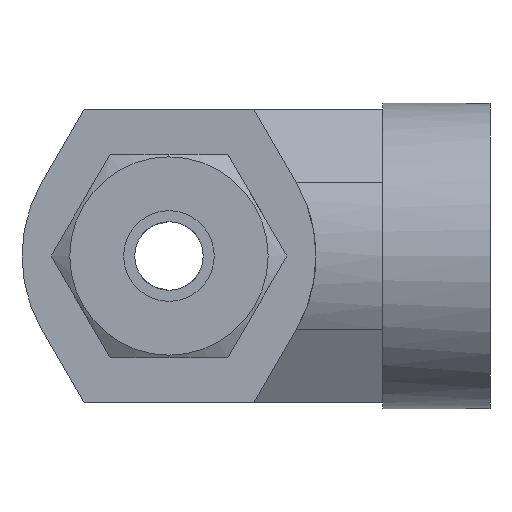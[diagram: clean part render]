
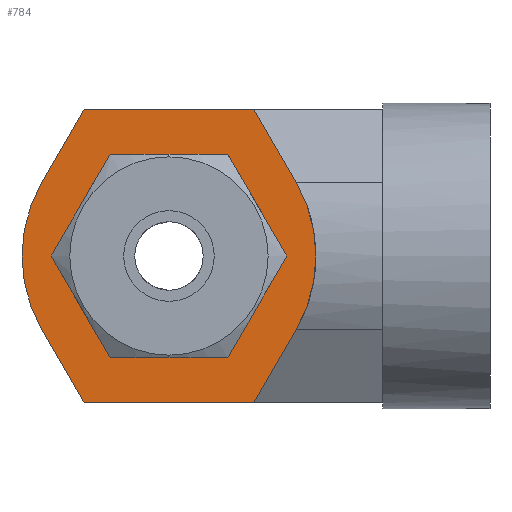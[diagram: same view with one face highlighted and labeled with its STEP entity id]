
A CAD part, left-side view. The second image highlights one B-rep face of the part: STEP entity #784.
In plain terms, the highlighted planar face has unit normal (-1, 0, 0).
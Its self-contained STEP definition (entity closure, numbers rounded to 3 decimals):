
#181 = VERTEX_POINT ( 'NONE', #1405 ) ;
#205 = EDGE_CURVE ( 'NONE', #181, #206, #1428, .T. ) ;
#206 = VERTEX_POINT ( 'NONE', #1423 ) ;
#523 = EDGE_CURVE ( 'NONE', #535, #527, #2210, .T. ) ;
#526 = EDGE_CURVE ( 'NONE', #527, #544, #2205, .T. ) ;
#527 = VERTEX_POINT ( 'NONE', #2196 ) ;
#535 = VERTEX_POINT ( 'NONE', #2181 ) ;
#541 = VERTEX_POINT ( 'NONE', #2239 ) ;
#543 = EDGE_CURVE ( 'NONE', #544, #541, #2238, .T. ) ;
#544 = VERTEX_POINT ( 'NONE', #2233 ) ;
#561 = VERTEX_POINT ( 'NONE', #2267 ) ;
#563 = EDGE_CURVE ( 'NONE', #564, #561, #2266, .T. ) ;
#564 = VERTEX_POINT ( 'NONE', #2262 ) ;
#633 = EDGE_CURVE ( 'NONE', #541, #564, #2344, .T. ) ;
#761 = EDGE_LOOP ( 'NONE', ( #762, #766, #768, #769, #770, #771, #772, #773 ) ) ;
#762 = ORIENTED_EDGE ( 'NONE', *, *, #763, .T. ) ;
#763 = EDGE_CURVE ( 'NONE', #764, #765, #2544, .T. ) ;
#764 = VERTEX_POINT ( 'NONE', #2601 ) ;
#765 = VERTEX_POINT ( 'NONE', #2600 ) ;
#766 = ORIENTED_EDGE ( 'NONE', *, *, #767, .T. ) ;
#767 = EDGE_CURVE ( 'NONE', #765, #535, #2599, .T. ) ;
#768 = ORIENTED_EDGE ( 'NONE', *, *, #523, .T. ) ;
#769 = ORIENTED_EDGE ( 'NONE', *, *, #526, .T. ) ;
#770 = ORIENTED_EDGE ( 'NONE', *, *, #543, .T. ) ;
#771 = ORIENTED_EDGE ( 'NONE', *, *, #633, .T. ) ;
#772 = ORIENTED_EDGE ( 'NONE', *, *, #563, .T. ) ;
#773 = ORIENTED_EDGE ( 'NONE', *, *, #825, .T. ) ;
#784 = ADVANCED_FACE ( 'NONE', ( #2579, #2578 ), #2576, .T. ) ;
#825 = EDGE_CURVE ( 'NONE', #561, #764, #2704, .T. ) ;
#826 = EDGE_LOOP ( 'NONE', ( #827, #829 ) ) ;
#827 = ORIENTED_EDGE ( 'NONE', *, *, #828, .F. ) ;
#828 = EDGE_CURVE ( 'NONE', #206, #181, #2700, .T. ) ;
#829 = ORIENTED_EDGE ( 'NONE', *, *, #205, .F. ) ;
#1405 = CARTESIAN_POINT ( 'NONE',  ( -12.17, 0., -4.71 ) ) ;
#1423 = CARTESIAN_POINT ( 'NONE',  ( -12.17, 0., 4.71 ) ) ;
#1424 = DIRECTION ( 'NONE',  ( 0., 0., -1. ) ) ;
#1425 = DIRECTION ( 'NONE',  ( -1., 0., 0. ) ) ;
#1426 = CARTESIAN_POINT ( 'NONE',  ( -12.17, 0., 0. ) ) ;
#1427 = AXIS2_PLACEMENT_3D ( 'NONE', #1426, #1425, #1424 ) ;
#1428 = CIRCLE ( 'NONE', #1427, 4.71 ) ;
#2181 = CARTESIAN_POINT ( 'NONE',  ( -12.17, -5.947, 10.3 ) ) ;
#2196 = CARTESIAN_POINT ( 'NONE',  ( -12.17, 5.947, 10.3 ) ) ;
#2197 = DIRECTION ( 'NONE',  ( 0., 0.5, -0.866 ) ) ;
#2198 = VECTOR ( 'NONE', #2197, 1000. ) ;
#2199 = CARTESIAN_POINT ( 'NONE',  ( -12.17, 5.947, 10.3 ) ) ;
#2205 = LINE ( 'NONE', #2199, #2198 ) ;
#2207 = DIRECTION ( 'NONE',  ( 0., 1., 0. ) ) ;
#2208 = VECTOR ( 'NONE', #2207, 1000. ) ;
#2209 = CARTESIAN_POINT ( 'NONE',  ( -12.17, -5.947, 10.3 ) ) ;
#2210 = LINE ( 'NONE', #2209, #2208 ) ;
#2233 = CARTESIAN_POINT ( 'NONE',  ( -12.17, 8.92, 5.15 ) ) ;
#2234 = DIRECTION ( 'NONE',  ( 0., 0., -1. ) ) ;
#2235 = DIRECTION ( 'NONE',  ( -1., 0., 0. ) ) ;
#2236 = CARTESIAN_POINT ( 'NONE',  ( -12.17, 0., 0. ) ) ;
#2237 = AXIS2_PLACEMENT_3D ( 'NONE', #2236, #2235, #2234 ) ;
#2238 = CIRCLE ( 'NONE', #2237, 10.3 ) ;
#2239 = CARTESIAN_POINT ( 'NONE',  ( -12.17, 8.92, -5.15 ) ) ;
#2262 = CARTESIAN_POINT ( 'NONE',  ( -12.17, 5.947, -10.3 ) ) ;
#2263 = DIRECTION ( 'NONE',  ( 0., -1., 0. ) ) ;
#2264 = VECTOR ( 'NONE', #2263, 1000. ) ;
#2265 = CARTESIAN_POINT ( 'NONE',  ( -12.17, 5.947, -10.3 ) ) ;
#2266 = LINE ( 'NONE', #2265, #2264 ) ;
#2267 = CARTESIAN_POINT ( 'NONE',  ( -12.17, -5.947, -10.3 ) ) ;
#2341 = DIRECTION ( 'NONE',  ( 0., -0.5, -0.866 ) ) ;
#2342 = VECTOR ( 'NONE', #2341, 1000. ) ;
#2343 = CARTESIAN_POINT ( 'NONE',  ( -12.17, 8.92, -5.15 ) ) ;
#2344 = LINE ( 'NONE', #2343, #2342 ) ;
#2544 = CIRCLE ( 'NONE', #2605, 10.3 ) ;
#2576 = PLANE ( 'NONE',  #2577 ) ;
#2577 = AXIS2_PLACEMENT_3D ( 'NONE', #2639, #2638, #2637 ) ;
#2578 = FACE_BOUND ( 'NONE', #826, .T. ) ;
#2579 = FACE_OUTER_BOUND ( 'NONE', #761, .T. ) ;
#2596 = DIRECTION ( 'NONE',  ( 0., 0.5, 0.866 ) ) ;
#2597 = VECTOR ( 'NONE', #2596, 1000. ) ;
#2598 = CARTESIAN_POINT ( 'NONE',  ( -12.17, -8.92, 5.15 ) ) ;
#2599 = LINE ( 'NONE', #2598, #2597 ) ;
#2600 = CARTESIAN_POINT ( 'NONE',  ( -12.17, -8.92, 5.15 ) ) ;
#2601 = CARTESIAN_POINT ( 'NONE',  ( -12.17, -8.92, -5.15 ) ) ;
#2602 = DIRECTION ( 'NONE',  ( 0., 0., -1. ) ) ;
#2603 = DIRECTION ( 'NONE',  ( -1., 0., 0. ) ) ;
#2604 = CARTESIAN_POINT ( 'NONE',  ( -12.17, 0., 0. ) ) ;
#2605 = AXIS2_PLACEMENT_3D ( 'NONE', #2604, #2603, #2602 ) ;
#2637 = DIRECTION ( 'NONE',  ( 0., 0., -1. ) ) ;
#2638 = DIRECTION ( 'NONE',  ( -1., 0., 0. ) ) ;
#2639 = CARTESIAN_POINT ( 'NONE',  ( -12.17, 0., 0. ) ) ;
#2696 = DIRECTION ( 'NONE',  ( 0., 0., -1. ) ) ;
#2697 = DIRECTION ( 'NONE',  ( -1., 0., 0. ) ) ;
#2698 = CARTESIAN_POINT ( 'NONE',  ( -12.17, 0., 0. ) ) ;
#2699 = AXIS2_PLACEMENT_3D ( 'NONE', #2698, #2697, #2696 ) ;
#2700 = CIRCLE ( 'NONE', #2699, 4.71 ) ;
#2701 = DIRECTION ( 'NONE',  ( 0., -0.5, 0.866 ) ) ;
#2702 = VECTOR ( 'NONE', #2701, 1000. ) ;
#2703 = CARTESIAN_POINT ( 'NONE',  ( -12.17, -5.947, -10.3 ) ) ;
#2704 = LINE ( 'NONE', #2703, #2702 ) ;
